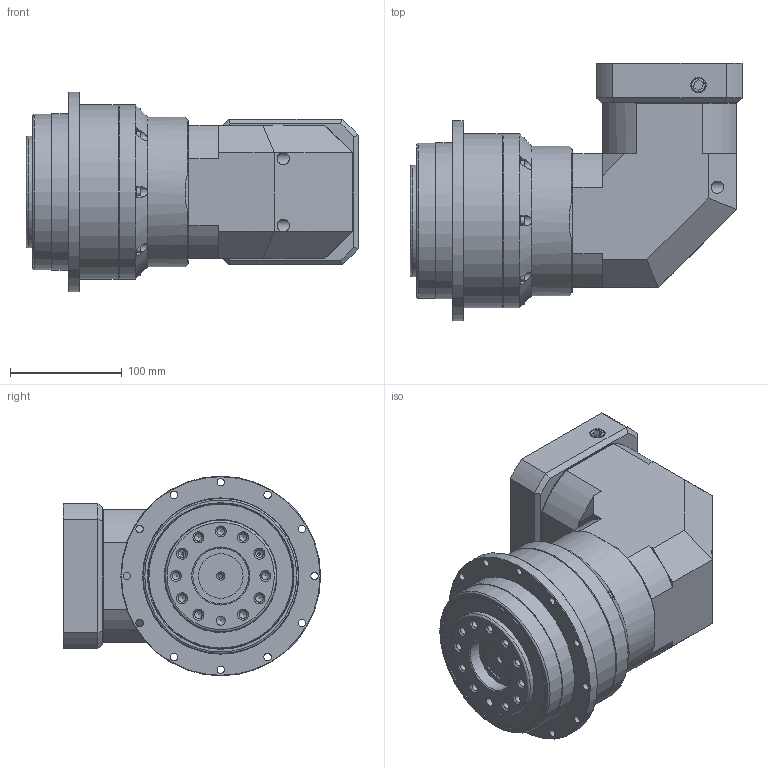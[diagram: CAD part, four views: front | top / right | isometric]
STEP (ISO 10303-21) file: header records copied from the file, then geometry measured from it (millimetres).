
FILE_DESCRIPTION((''),'2;1');
FILE_NAME('C:\Work\감속기 카다로그 도면\ATG Reducer(홈페이지)\KSDL\KSDL-140-2.stp','2014-07-09T14:47:55',('young'),(''),'Autodesk Inventor 2012','Autodesk Inventor 2012','');
FILE_SCHEMA(('AUTOMOTIVE_DESIGN { 1 0 10303 214 1 1 1 1 }'));
Length unit declared in the file: millimetre
Products named in the file (1): KSDL-140-2
Bounding box: 297.5 x 230.5 x 179 mm (x, y, z)
Volume: 2238813.6 mm3; surface area: 493147.7 mm2
Topology: 25 solids, 26 shells, 832 faces, 2055 edges, 1307 vertices
Faces by surface type: plane 390, cylinder 226, cone 154, torus 30, bspline 24, sphere 8
Full cylindrical faces by diameter (mm): 4 x9, 4.2 x9, 5 x4, 6.6 x12, 6.75 x11, 6.8 x12, 7 x8, 8 x10, 8.5 x7, 9 x1, 9.55 x3, 11 x4, 11.125 x2, 13 x6, 14.5 x1, 24 x1, 30 x1, 31 x1, 39.8 x1, 40 x2, 46 x1, 50 x1, 52 x1, 55 x3, 72 x1, 75 x1, 90 x1, 95 x1, 100 x2, 105 x2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
Entity records: 28483 total; most frequent: CARTESIAN_POINT 10434, DIRECTION 3758, ORIENTED_EDGE 3316, EDGE_CURVE 1658, AXIS2_PLACEMENT_3D 1538, EDGE_LOOP 1226, VERTEX_POINT 1200, FACE_OUTER_BOUND 831
